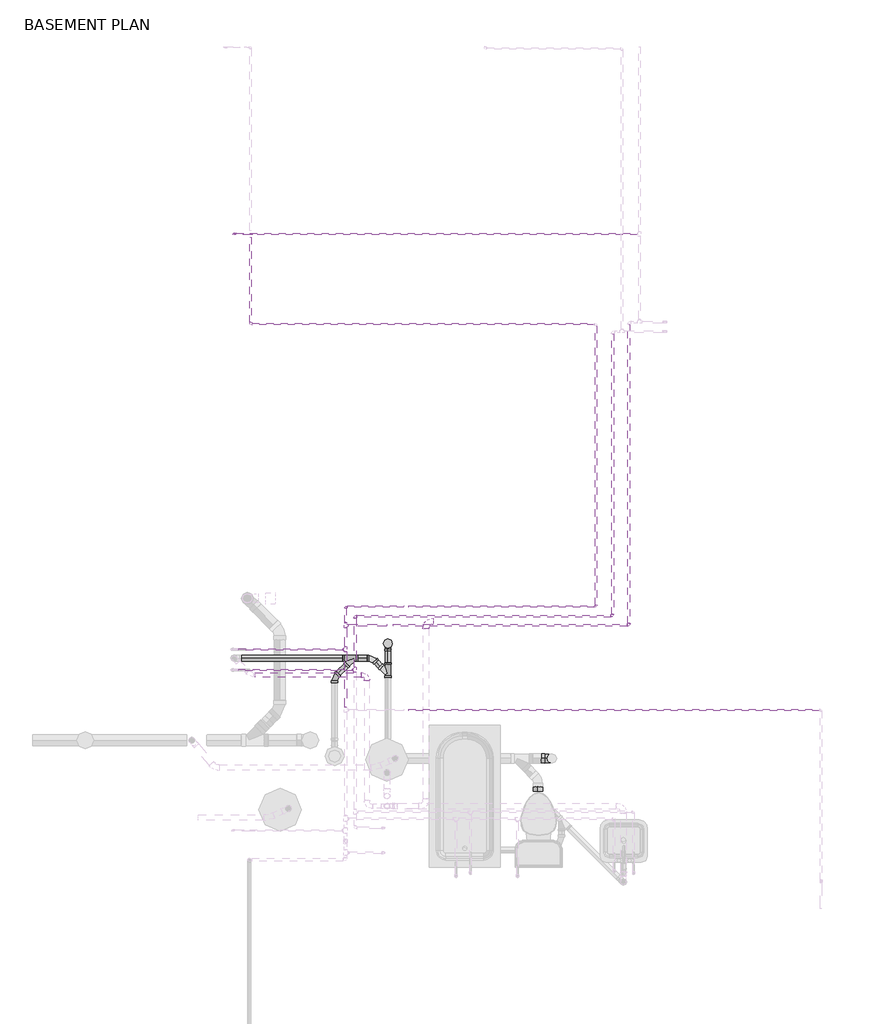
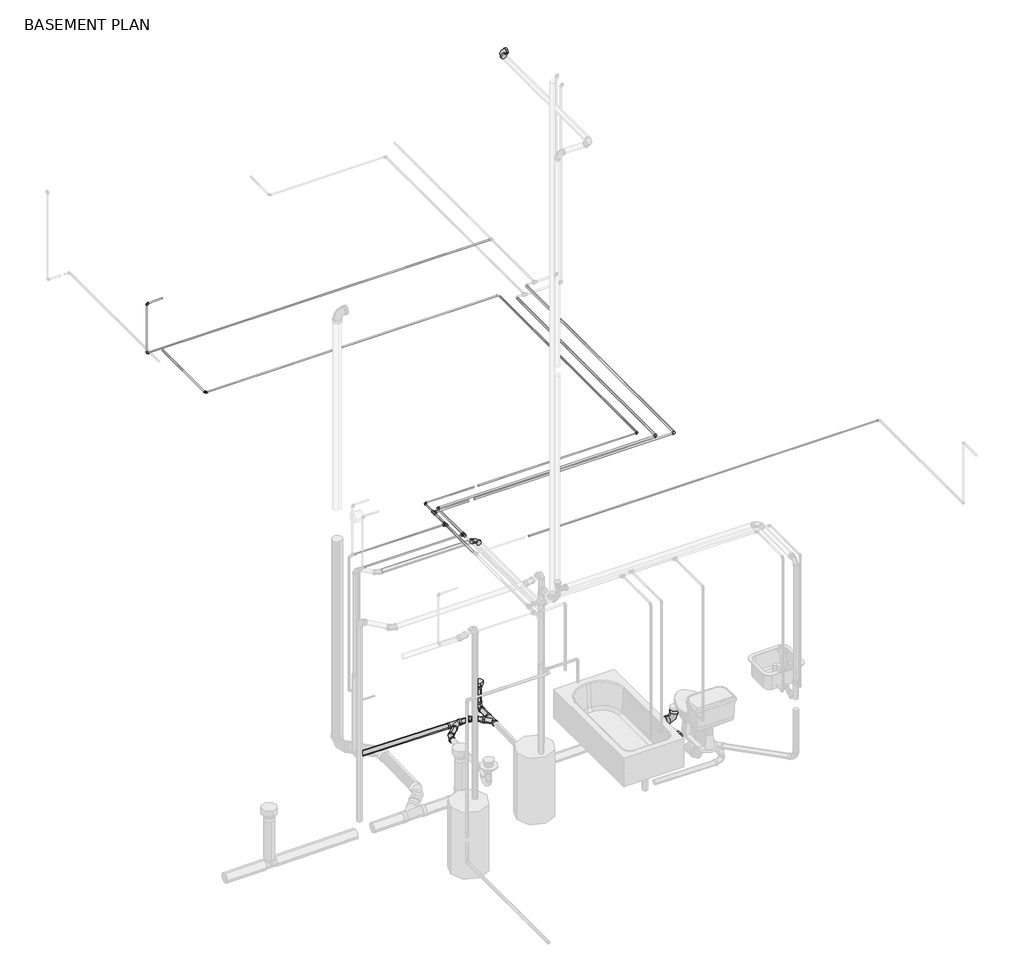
# One storey, part 5 of 6: 28 pipe segments, 23 pipe fittings.
"""IFC4 building model written with IfcOpenShell, lengths in millimetres."""

from ifc_helpers import new_model, si_unit, point, frame, frame_2d, origin, place, context, project, spatial, circle_curve, trimmed, segment, composite_curve, outline, extrude, transform, mapped, element, save
from components import bend_pvc_sch_40_dwv_standard_22440e34, bend_pvc_sch_40_dwv_standard_738aab8b, bend_pvc_sch_40_dwv_standard_0b2bbcd0, bend_pvc_sch_40_dwv_standard_ae25a3c1, bend_pvc_sch_40_dwv_standard_a07dc17c, bend_pvc_sch_40_dwv_standard_1eaeee76, ges_wye_45_deg_reducing_pvc_sch_40_dwv_standard_9c642ce4, ges_wye_45_deg_reducing_pvc_sch_40_dwv_standard_65c4563d, pipe_elbow_copper_k_feaaf02c, pipe_elbow_copper_k_aad62f2d, pipe_tee_copper_k_ee363fbf, pipe_transition_copper_k_859ff352, reducer_pvc_sch_40_dwv_standard_44865e00

model = new_model("IFC4")

# Units and contexts
model_context = context("Model", 3, world=origin())
ifc_project = project(units=[si_unit("LENGTHUNIT", "METRE", prefix="MILLI")], contexts=[model_context])

# Site, building, storey
site = spatial("IfcSite", under=ifc_project)
building = spatial("IfcBuilding", under=site)
storey = spatial("IfcBuildingStorey", under=building, Name="BASEMENT PLAN", Elevation=-2743.2)

# Pipe fittings
placement = place(None, origin())
bend_pvc_sch_40_dwv_standard_shape = bend_pvc_sch_40_dwv_standard_22440e34(model_context)
element("IfcPipeFitting", 1, ObjectType="Bend - PVC - Sch 40 - DWV : Standard", at=placement, inside=storey, context=model_context, shape_type="MappedRepresentation", body=[
    mapped(bend_pvc_sch_40_dwv_standard_shape, transform((12899.7521498, 6499.8094775, -2966.6448268), x_axis=(-0.7070684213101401, 0.7070684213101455, 0.010416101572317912), y_axis=(-0.7070684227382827, -0.7071319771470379, 0.004314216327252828), z_axis=(0.010416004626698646, -0.004314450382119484, 0.9999364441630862))),
])
bend_pvc_sch_40_dwv_standard_2_shape = bend_pvc_sch_40_dwv_standard_738aab8b(model_context)
element("IfcPipeFitting", 2, ObjectType="Bend - PVC - Sch 40 - DWV : Standard", at=placement, inside=storey, context=model_context, shape_type="MappedRepresentation", body=[
    mapped(bend_pvc_sch_40_dwv_standard_2_shape, transform((12840.5254798, 6320.2049895, -457.1992725), x_axis=(0.0, 1.0, 0.0), y_axis=(-0.999999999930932, 0.0, -1.1753125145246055e-05), z_axis=(-1.1753125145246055e-05, 0.0, 0.999999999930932))),
])
bend_pvc_sch_40_dwv_standard_3_shape = bend_pvc_sch_40_dwv_standard_0b2bbcd0(model_context)
element("IfcPipeFitting", 3, ObjectType="Bend - PVC - Sch 40 - DWV : Standard", at=placement, inside=storey, context=model_context, shape_type="MappedRepresentation", body=[
    mapped(bend_pvc_sch_40_dwv_standard_3_shape, transform((14825.8662506, 5423.7988348, -2979.8369484), x_axis=(0.9999879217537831, 0.0, 0.004914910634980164), y_axis=(-0.004914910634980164, 0.0, 0.9999879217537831), z_axis=(0.0, -1.0, 0.0))),
])
bend_pvc_sch_40_dwv_standard_4_shape = bend_pvc_sch_40_dwv_standard_ae25a3c1(model_context)
element("IfcPipeFitting", 4, ObjectType="Bend - PVC - Sch 40 - DWV : Standard", at=placement, inside=storey, context=model_context, shape_type="MappedRepresentation", body=[
    mapped(bend_pvc_sch_40_dwv_standard_4_shape, transform((13065.0696207, 6656.3115087, -2967.4013021), x_axis=(0.0, 0.9999976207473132, 0.0021813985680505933), y_axis=(0.0, -0.0021813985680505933, 0.9999976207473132), z_axis=(1.0, 0.0, 0.0))),
])
bend_pvc_sch_40_dwv_standard_5_shape = bend_pvc_sch_40_dwv_standard_a07dc17c(model_context)
element("IfcPipeFitting", 5, ObjectType="Bend - PVC - Sch 40 - DWV : Standard", at=placement, inside=storey, context=model_context, shape_type="MappedRepresentation", body=[
    mapped(bend_pvc_sch_40_dwv_standard_5_shape, transform((12494.0776142, 6295.5440891, -2962.795389), x_axis=(-0.7070684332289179, -0.7071067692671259, 0.007365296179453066), y_axis=(0.707068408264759, -0.7071067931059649, -0.0073654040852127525), z_axis=(0.01041617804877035, -7.648062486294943e-08, 0.9999457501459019))),
])
bend_pvc_sch_40_dwv_standard_6_shape = bend_pvc_sch_40_dwv_standard_1eaeee76(model_context)
element("IfcPipeFitting", 6, ObjectType="Bend - PVC - Sch 40 - DWV : Standard", at=placement, inside=storey, context=model_context, shape_type="MappedRepresentation", body=[
    mapped(bend_pvc_sch_40_dwv_standard_6_shape, transform((13475.5254798, 6891.7049895, 5486.4), x_axis=(-1.0, 0.0, 0.0), y_axis=(0.0, -1.0, 0.0), z_axis=(0.0, 0.0, 1.0))),
])
ges_wye_45_deg_reducing_pvc_sch_40_dwv_standard_shape = ges_wye_45_deg_reducing_pvc_sch_40_dwv_standard_9c642ce4(model_context)
element("IfcPipeFitting", 7, ObjectType="GES Wye 45 Deg Reducing - PVC - Sch 40 - DWV : Standard", at=placement, inside=storey, context=model_context, shape_type="MappedRepresentation", body=[
    mapped(ges_wye_45_deg_reducing_pvc_sch_40_dwv_standard_shape, transform((13065.0696207, 6334.4920066, -2969.0801831), x_axis=(0.0, 0.9999457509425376, 0.0104161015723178), y_axis=(0.9999906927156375, 4.4939753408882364e-05, -0.004314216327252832), z_axis=(-0.00431445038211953, 0.010416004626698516, -0.9999364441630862))),
])
ges_wye_45_deg_reducing_pvc_sch_40_dwv_standard_2_shape = ges_wye_45_deg_reducing_pvc_sch_40_dwv_standard_65c4563d(model_context)
element("IfcPipeFitting", 8, ObjectType="GES Wye 45 Deg Reducing - PVC - Sch 40 - DWV : Standard", at=placement, inside=storey, context=model_context, shape_type="MappedRepresentation", body=[
    mapped(ges_wye_45_deg_reducing_pvc_sch_40_dwv_standard_2_shape, transform((12698.3357503, 6499.8094775, -2964.5467393), x_axis=(-0.9999457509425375, 0.0, 0.010416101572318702), y_axis=(0.0, 1.0, 0.0), z_axis=(-0.010416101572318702, 0.0, -0.9999457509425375))),
])
pipe_elbow_copper_k_shape = pipe_elbow_copper_k_feaaf02c(model_context)
element("IfcPipeFitting", 9, ObjectType="Pipe Elbow : Copper- K", at=placement, inside=storey, context=model_context, shape_type="MappedRepresentation", body=[
    mapped(pipe_elbow_copper_k_shape, transform((15653.8646023, 6851.6848541, -334.4523585), x_axis=(1.0, 0.0, 0.0), y_axis=(0.0, 1.0, 0.0), z_axis=(0.0, 0.0, 1.0))),
])
element("IfcPipeFitting", 10, ObjectType="Pipe Elbow : Copper- K", at=placement, inside=storey, context=model_context, shape_type="MappedRepresentation", body=[
    mapped(pipe_elbow_copper_k_shape, transform((15478.2943208, 6951.0551356, -372.5523585), x_axis=(1.0, 0.0, 0.0), y_axis=(0.0, 1.0, 0.0), z_axis=(0.0, 0.0, 1.0))),
])
element("IfcPipeFitting", 11, ObjectType="Pipe Elbow : Copper- K", at=placement, inside=storey, context=model_context, shape_type="MappedRepresentation", body=[
    mapped(pipe_elbow_copper_k_shape, transform((12713.5254798, 6951.0551356, -372.5523585), x_axis=(-1.0, 0.0, 0.0), y_axis=(0.0, -1.0, 0.0), z_axis=(0.0, 0.0, 1.0))),
])
pipe_elbow_copper_k_2_shape = pipe_elbow_copper_k_aad62f2d(model_context)
element("IfcPipeFitting", 12, ObjectType="Pipe Elbow : Copper- K", at=placement, inside=storey, context=model_context, shape_type="MappedRepresentation", body=[
    mapped(pipe_elbow_copper_k_2_shape, transform((12611.9254798, 7052.7706776, -334.4523585), x_axis=(-1.0, 0.0, 0.0), y_axis=(0.0, -1.0, 0.0), z_axis=(0.0, 0.0, 1.0))),
])
element("IfcPipeFitting", 13, ObjectType="Pipe Elbow : Copper- K", at=placement, inside=storey, context=model_context, shape_type="MappedRepresentation", body=[
    mapped(pipe_elbow_copper_k_2_shape, transform((15300.3787788, 7052.7706776, -334.4523585), x_axis=(1.0, 0.0, 0.0), y_axis=(0.0, 1.0, 0.0), z_axis=(0.0, 0.0, 1.0))),
])
element("IfcPipeFitting", 14, ObjectType="Pipe Elbow : Copper- K", at=placement, inside=storey, context=model_context, shape_type="MappedRepresentation", body=[
    mapped(pipe_elbow_copper_k_2_shape, transform((11412.5692298, 11054.3580205, 330.2), x_axis=(0.0, 0.0, 1.0), y_axis=(1.0, 0.0, 0.0), z_axis=(0.0, 1.0, 0.0))),
])
element("IfcPipeFitting", 15, ObjectType="Pipe Elbow : Copper- K", at=placement, inside=storey, context=model_context, shape_type="MappedRepresentation", body=[
    mapped(pipe_elbow_copper_k_2_shape, transform((11591.9787788, 10086.3006796, -334.4523585), x_axis=(0.0, -1.0, 0.0), y_axis=(1.0, 0.0, 0.0), z_axis=(0.0, 0.0, 1.0))),
])
element("IfcPipeFitting", 16, ObjectType="Pipe Elbow : Copper- K", at=placement, inside=storey, context=model_context, shape_type="MappedRepresentation", body=[
    mapped(pipe_elbow_copper_k_2_shape, transform((11412.5692298, 11054.3580205, -334.4523585), x_axis=(0.0, 0.0, -1.0), y_axis=(1.0, 0.0, 0.0), z_axis=(0.0, -1.0, 0.0))),
])
pipe_tee_copper_k_shape = pipe_tee_copper_k_ee363fbf(model_context)
element("IfcPipeFitting", 17, ObjectType="Pipe Tee : Copper- K", at=placement, inside=storey, context=model_context, shape_type="MappedRepresentation", body=[
    mapped(pipe_tee_copper_k_shape, transform((12611.9254798, 6593.4490306, -334.4523585), x_axis=(0.0, -1.0, 0.0), y_axis=(1.0, 0.0, 0.0), z_axis=(0.0, 0.0, 1.0))),
])
element("IfcPipeFitting", 18, ObjectType="Pipe Tee : Copper- K", at=placement, inside=storey, context=model_context, shape_type="MappedRepresentation", body=[
    mapped(pipe_tee_copper_k_shape, transform((12713.5254798, 6373.0955073, -372.5523585), x_axis=(0.0, -1.0, 0.0), y_axis=(1.0, 0.0, 0.0), z_axis=(0.0, 0.0, 1.0))),
])
element("IfcPipeFitting", 19, ObjectType="Pipe Tee : Copper- K", at=placement, inside=storey, context=model_context, shape_type="MappedRepresentation", body=[
    mapped(pipe_tee_copper_k_shape, transform((12611.9254798, 6851.6848541, -334.4523585), x_axis=(0.0, -1.0, 0.0), y_axis=(-1.0, 0.0, 0.0), z_axis=(0.0, 0.0, -1.0))),
])
pipe_transition_copper_k_shape = pipe_transition_copper_k_859ff352(model_context)
element("IfcPipeFitting", 20, ObjectType="Pipe Transition : Copper- K", at=placement, inside=storey, context=model_context, shape_type="MappedRepresentation", body=[
    mapped(pipe_transition_copper_k_shape, transform((12584.9379798, 6593.4490306, -334.4523585), x_axis=(-1.0, 0.0, 0.0), y_axis=(0.0, -1.0, 0.0), z_axis=(0.0, 0.0, 1.0))),
])
element("IfcPipeFitting", 21, ObjectType="Pipe Transition : Copper- K", at=placement, inside=storey, context=model_context, shape_type="MappedRepresentation", body=[
    mapped(pipe_transition_copper_k_shape, transform((12686.5379798, 6373.0955073, -372.5523585), x_axis=(-1.0, 0.0, 0.0), y_axis=(0.0, -1.0, 0.0), z_axis=(0.0, 0.0, 1.0))),
])
element("IfcPipeFitting", 22, ObjectType="Pipe Transition : Copper- K", at=placement, inside=storey, context=model_context, shape_type="MappedRepresentation", body=[
    mapped(pipe_transition_copper_k_shape, transform((12611.9254798, 6878.6723541, -334.4523585), x_axis=(0.0, 1.0, 0.0), y_axis=(-1.0, 0.0, 0.0), z_axis=(0.0, 0.0, 1.0))),
])
reducer_pvc_sch_40_dwv_standard_shape = reducer_pvc_sch_40_dwv_standard_44865e00(model_context)
element("IfcPipeFitting", 23, ObjectType="Reducer - PVC - Sch 40 - DWV : Standard", at=placement, inside=storey, context=model_context, shape_type="MappedRepresentation", body=[
    mapped(reducer_pvc_sch_40_dwv_standard_shape, transform((13065.0696207, 6656.3115087, -2706.813665), x_axis=(0.0, 0.0, 1.0), y_axis=(1.0, 0.0, 0.0), z_axis=(0.0, 1.0, 0.0))),
])

# Pipe segments
element("IfcPipeSegment", 24, ObjectType="Cast Iron - SAN/STORM", at=placement, inside=storey, context=model_context, shape_type="SweptSolid", body=[
    extrude(outline(composite_curve([segment(trimmed(circle_curve(frame_2d((0.0, -30.1625)), 30.1625), [point((0.0, -60.325))], [point((-30.1625, -30.1625))], False, "CARTESIAN"), True, "CONTINUOUS"), segment(trimmed(circle_curve(frame_2d((0.0, -30.1625)), 30.1625), [point((-30.1625, -30.1625))], [point((0.0, 0.0))], False, "CARTESIAN"), True, "CONTINUOUS"), segment(trimmed(circle_curve(frame_2d((0.0, -30.1625)), 30.1625), [point((0.0, 0.0))], [point((30.1625, -30.1625))], False, "CARTESIAN"), True, "CONTINUOUS"), segment(trimmed(circle_curve(frame_2d((0.0, -30.1625)), 30.1625), [point((30.1625, -30.1625))], [point((0.0, -60.325))], False, "CARTESIAN"), True, "CONTINUOUS")], self_intersect=False)), frame((12842.6052501, 6529.9719775, -2966.0495466), z_axis=(-0.9999457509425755, 0.0, 0.010416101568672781), x_axis=(0.010416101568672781, 0.0, 0.9999457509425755)), (0.0, 0.0, 1.0), 100.109108),
])
element("IfcPipeSegment", 25, ObjectType="Cast Iron - SAN/STORM", at=placement, inside=storey, context=model_context, shape_type="SweptSolid", body=[
    extrude(outline(composite_curve([segment(trimmed(circle_curve(frame_2d((0.0, -30.1625)), 30.1625), [point((-30.1608639, -30.4766586))], [point((-0.3141587, -0.001636))], False, "CARTESIAN"), True, "CONTINUOUS"), segment(trimmed(circle_curve(frame_2d((0.0, -30.1625)), 30.1625), [point((-0.3141587, -0.001636))], [point((30.1608639, -29.8483414))], False, "CARTESIAN"), True, "CONTINUOUS"), segment(trimmed(circle_curve(frame_2d((0.0, -30.1625)), 30.1625), [point((30.1608639, -29.8483414))], [point((0.3141586, -60.3233639))], False, "CARTESIAN"), True, "CONTINUOUS"), segment(trimmed(circle_curve(frame_2d((0.0, -30.1625)), 30.1625), [point((0.3141586, -60.3233639))], [point((-30.1608639, -30.4766586))], False, "CARTESIAN"), True, "CONTINUOUS")], self_intersect=False)), frame((12984.9953373, 6415.0105774, -2998.0598052), z_axis=(-0.7070684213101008, 0.7070684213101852, 0.010416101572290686), x_axis=(0.7071451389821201, 0.7069917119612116, 0.010414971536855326)), (0.0, 0.0, 1.0), 63.408612),
])
element("IfcPipeSegment", 26, ObjectType="Cast Iron - SAN/STORM", at=placement, inside=storey, context=model_context, shape_type="SweptSolid", body=[
    extrude(outline(composite_curve([segment(trimmed(circle_curve(frame_2d((0.0, 50.403125)), 50.403125), [point((-50.403125, 50.403125))], [point((0.0, 100.8062499))], False, "CARTESIAN"), True, "CONTINUOUS"), segment(trimmed(circle_curve(frame_2d((0.0, 50.403125)), 50.403125), [point((0.0, 100.8062499))], [point((50.403125, 50.403125))], False, "CARTESIAN"), True, "CONTINUOUS"), segment(trimmed(circle_curve(frame_2d((0.0, 50.403125)), 50.403125), [point((50.403125, 50.403125))], [point((0.0, 0.0))], False, "CARTESIAN"), True, "CONTINUOUS"), segment(trimmed(circle_curve(frame_2d((0.0, 50.403125)), 50.403125), [point((0.0, 0.0))], [point((-50.403125, 50.403125))], False, "CARTESIAN"), True, "CONTINUOUS")], self_intersect=False)), frame((14676.5331398, 5118.8215667, -3029.8372366), z_axis=(0.0, -0.9999457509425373, 0.010416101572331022), x_axis=(1.0, 0.0, 0.0)), (0.0, 0.0, 1.0), 46.2797682),
])
element("IfcPipeSegment", 27, ObjectType="Cast Iron - SAN/STORM", at=placement, inside=storey, context=model_context, shape_type="SweptSolid", body=[
    extrude(outline(composite_curve([segment(trimmed(circle_curve(frame_2d((0.0, 30.1625)), 30.1625), [point((-30.1622354, 30.2888525))], [point((0.1263525, 60.3247354))], False, "CARTESIAN"), True, "CONTINUOUS"), segment(trimmed(circle_curve(frame_2d((0.0, 30.1625)), 30.1625), [point((0.1263525, 60.3247354))], [point((30.1622353, 30.0361475))], False, "CARTESIAN"), True, "CONTINUOUS"), segment(trimmed(circle_curve(frame_2d((0.0, 30.1625)), 30.1625), [point((30.1622353, 30.0361475))], [point((-0.1263525, 0.0002647))], False, "CARTESIAN"), True, "CONTINUOUS"), segment(trimmed(circle_curve(frame_2d((0.0, 30.1625)), 30.1625), [point((-0.1263525, 0.0002647))], [point((-30.1622354, 30.2888525))], False, "CARTESIAN"), True, "CONTINUOUS")], self_intersect=False)), frame((12618.2614655, 6419.552161, -2993.8746029), z_axis=(-0.7070975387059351, -0.7071036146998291, 0.004189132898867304), x_axis=(0.7071160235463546, -0.7070851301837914, 0.00418902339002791)), (0.0, 0.0, 1.0), 118.4771348),
])
element("IfcPipeSegment", 28, ObjectType="Cast Iron - SAN/STORM", at=placement, inside=storey, context=model_context, shape_type="SweptSolid", body=[
    extrude(outline(composite_curve([segment(trimmed(circle_curve(frame_2d((0.0, 30.1625)), 30.1625), [point((30.1625, 30.1625))], [point((0.0, 0.0))], False, "CARTESIAN"), True, "CONTINUOUS"), segment(trimmed(circle_curve(frame_2d((0.0, 30.1625)), 30.1625), [point((0.0, 0.0))], [point((-30.1625, 30.1625))], False, "CARTESIAN"), True, "CONTINUOUS"), segment(trimmed(circle_curve(frame_2d((0.0, 30.1625)), 30.1625), [point((-30.1625, 30.1625))], [point((0.0, 60.325))], False, "CARTESIAN"), True, "CONTINUOUS"), segment(trimmed(circle_curve(frame_2d((0.0, 30.1625)), 30.1625), [point((0.0, 60.325))], [point((30.1625, 30.1625))], False, "CARTESIAN"), True, "CONTINUOUS")], self_intersect=False)), frame((13065.0696207, 6453.0457123, -2937.6821351), z_axis=(0.0, 0.9999976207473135, 0.0021813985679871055), x_axis=(1.0, 0.0, 0.0)), (0.0, 0.0, 1.0), 125.4002835),
])
element("IfcPipeSegment", 29, ObjectType="Cast Iron - SAN/STORM", at=placement, inside=storey, context=model_context, shape_type="SweptSolid", body=[
    extrude(outline(composite_curve([segment(trimmed(circle_curve(frame_2d((13065.0696207, 6656.3115087)), 30.1625), [point((13034.9071207, 6656.3115087))], [point((13065.0696207, 6686.4740087))], False, "CARTESIAN"), True, "CONTINUOUS"), segment(trimmed(circle_curve(frame_2d((13065.0696207, 6656.3115087)), 30.1625), [point((13065.0696207, 6686.4740087))], [point((13095.2321207, 6656.3115087))], False, "CARTESIAN"), True, "CONTINUOUS"), segment(trimmed(circle_curve(frame_2d((13065.0696207, 6656.3115087)), 30.1625), [point((13095.2321207, 6656.3115087))], [point((13065.0696207, 6626.1490087))], False, "CARTESIAN"), True, "CONTINUOUS"), segment(trimmed(circle_curve(frame_2d((13065.0696207, 6656.3115087)), 30.1625), [point((13065.0696207, 6626.1490087))], [point((13034.9071207, 6656.3115087))], False, "CARTESIAN"), True, "CONTINUOUS")], self_intersect=False)), frame((0.0, 0.0, -2889.6011021), z_axis=(0.0, 0.0, 1.0), x_axis=(1.0, 0.0, 0.0)), (0.0, 0.0, 1.0), 182.7874371),
])
element("IfcPipeSegment", 30, ObjectType="Cast Iron - SAN/STORM", at=placement, inside=storey, context=model_context, shape_type="SweptSolid", body=[
    extrude(outline(composite_curve([segment(trimmed(circle_curve(frame_2d((0.0, -30.1625)), 30.1625), [point((0.0, -60.325))], [point((-30.1625, -30.1625))], False, "CARTESIAN"), True, "CONTINUOUS"), segment(trimmed(circle_curve(frame_2d((0.0, -30.1625)), 30.1625), [point((-30.1625, -30.1625))], [point((0.0, 0.0))], False, "CARTESIAN"), True, "CONTINUOUS"), segment(trimmed(circle_curve(frame_2d((0.0, -30.1625)), 30.1625), [point((0.0, 0.0))], [point((30.1625, -30.1625))], False, "CARTESIAN"), True, "CONTINUOUS"), segment(trimmed(circle_curve(frame_2d((0.0, -30.1625)), 30.1625), [point((30.1625, -30.1625))], [point((0.0, -60.325))], False, "CARTESIAN"), True, "CONTINUOUS")], self_intersect=False)), frame((12579.7162481, 6529.9719775, -2963.3111195), z_axis=(-0.999945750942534, 0.0, 0.010416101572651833), x_axis=(0.010416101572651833, 0.0, 0.999945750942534)), (0.0, 0.0, 1.0), 1087.0724453),
])
element("IfcPipeSegment", 31, ObjectType="Copper", at=placement, inside=storey, context=model_context, shape_type="SweptSolid", body=[
    extrude(outline(composite_curve([segment(trimmed(circle_curve(frame_2d((-372.5523585, 12713.5254798)), 11.1125), [point((-372.5523585, 12724.6379798))], [point((-361.4398585, 12713.5254798))], False, "CARTESIAN"), True, "CONTINUOUS"), segment(trimmed(circle_curve(frame_2d((-372.5523585, 12713.5254798)), 11.1125), [point((-361.4398585, 12713.5254798))], [point((-372.5523585, 12702.4129798))], False, "CARTESIAN"), True, "CONTINUOUS"), segment(trimmed(circle_curve(frame_2d((-372.5523585, 12713.5254798)), 11.1125), [point((-372.5523585, 12702.4129798))], [point((-383.6648585, 12713.5254798))], False, "CARTESIAN"), True, "CONTINUOUS"), segment(trimmed(circle_curve(frame_2d((-372.5523585, 12713.5254798)), 11.1125), [point((-383.6648585, 12713.5254798))], [point((-372.5523585, 12724.6379798))], False, "CARTESIAN"), True, "CONTINUOUS")], self_intersect=False)), frame((0.0, 6400.0830073, 0.0), z_axis=(0.0, 1.0, 0.0), x_axis=(0.0, 0.0, 1.0)), (0.0, 0.0, 1.0), 530.3346283),
])
element("IfcPipeSegment", 32, ObjectType="Copper", at=placement, inside=storey, context=model_context, shape_type="SweptSolid", body=[
    extrude(outline(composite_curve([segment(trimmed(circle_curve(frame_2d((-334.4523585, 12611.9254798)), 7.9375), [point((-334.4523585, 12619.8629798))], [point((-326.5148585, 12611.9254798))], False, "CARTESIAN"), True, "CONTINUOUS"), segment(trimmed(circle_curve(frame_2d((-334.4523585, 12611.9254798)), 7.9375), [point((-326.5148585, 12611.9254798))], [point((-334.4523585, 12603.9879798))], False, "CARTESIAN"), True, "CONTINUOUS"), segment(trimmed(circle_curve(frame_2d((-334.4523585, 12611.9254798)), 7.9375), [point((-334.4523585, 12603.9879798))], [point((-342.3898585, 12611.9254798))], False, "CARTESIAN"), True, "CONTINUOUS"), segment(trimmed(circle_curve(frame_2d((-334.4523585, 12611.9254798)), 7.9375), [point((-342.3898585, 12611.9254798))], [point((-334.4523585, 12619.8629798))], False, "CARTESIAN"), True, "CONTINUOUS")], self_intersect=False)), frame((0.0, 6884.2286041, 0.0), z_axis=(0.0, 1.0, 0.0), x_axis=(0.0, 0.0, 1.0)), (0.0, 0.0, 1.0), 151.0795735),
])
element("IfcPipeSegment", 33, ObjectType="Copper", at=placement, inside=storey, context=model_context, shape_type="SweptSolid", body=[
    extrude(outline(composite_curve([segment(trimmed(circle_curve(frame_2d((7052.7706776, -334.4523585)), 7.9375), [point((7060.7081776, -334.4523585))], [point((7052.7706776, -342.3898585))], False, "CARTESIAN"), True, "CONTINUOUS"), segment(trimmed(circle_curve(frame_2d((7052.7706776, -334.4523585)), 7.9375), [point((7052.7706776, -342.3898585))], [point((7044.8331776, -334.4523585))], False, "CARTESIAN"), True, "CONTINUOUS"), segment(trimmed(circle_curve(frame_2d((7052.7706776, -334.4523585)), 7.9375), [point((7044.8331776, -334.4523585))], [point((7052.7706776, -326.5148585))], False, "CARTESIAN"), True, "CONTINUOUS"), segment(trimmed(circle_curve(frame_2d((7052.7706776, -334.4523585)), 7.9375), [point((7052.7706776, -326.5148585))], [point((7060.7081776, -334.4523585))], False, "CARTESIAN"), True, "CONTINUOUS")], self_intersect=False)), frame((12629.3879798, 0.0, 0.0), z_axis=(1.0, 0.0, 0.0), x_axis=(0.0, 1.0, 0.0)), (0.0, 0.0, 1.0), 606.25757),
])
element("IfcPipeSegment", 34, ObjectType="Copper", at=placement, inside=storey, context=model_context, shape_type="SweptSolid", body=[
    extrude(outline(composite_curve([segment(trimmed(circle_curve(frame_2d((6951.0551356, -372.5523585)), 11.1125), [point((6962.1676356, -372.5523585))], [point((6951.0551356, -383.6648585))], False, "CARTESIAN"), True, "CONTINUOUS"), segment(trimmed(circle_curve(frame_2d((6951.0551356, -372.5523585)), 11.1125), [point((6951.0551356, -383.6648585))], [point((6939.9426356, -372.5523585))], False, "CARTESIAN"), True, "CONTINUOUS"), segment(trimmed(circle_curve(frame_2d((6951.0551356, -372.5523585)), 11.1125), [point((6939.9426356, -372.5523585))], [point((6951.0551356, -361.4398585))], False, "CARTESIAN"), True, "CONTINUOUS"), segment(trimmed(circle_curve(frame_2d((6951.0551356, -372.5523585)), 11.1125), [point((6951.0551356, -361.4398585))], [point((6962.1676356, -372.5523585))], False, "CARTESIAN"), True, "CONTINUOUS")], self_intersect=False)), frame((12734.1629798, 0.0, 0.0), z_axis=(1.0, 0.0, 0.0), x_axis=(0.0, 1.0, 0.0)), (0.0, 0.0, 1.0), 2723.4938409),
])
element("IfcPipeSegment", 35, ObjectType="Copper", at=placement, inside=storey, context=model_context, shape_type="SweptSolid", body=[
    extrude(outline(composite_curve([segment(trimmed(circle_curve(frame_2d((6851.6848541, -334.4523585)), 11.1125), [point((6862.7973541, -334.4523585))], [point((6851.6848541, -345.5648585))], False, "CARTESIAN"), True, "CONTINUOUS"), segment(trimmed(circle_curve(frame_2d((6851.6848541, -334.4523585)), 11.1125), [point((6851.6848541, -345.5648585))], [point((6840.5723541, -334.4523585))], False, "CARTESIAN"), True, "CONTINUOUS"), segment(trimmed(circle_curve(frame_2d((6851.6848541, -334.4523585)), 11.1125), [point((6840.5723541, -334.4523585))], [point((6851.6848541, -323.3398585))], False, "CARTESIAN"), True, "CONTINUOUS"), segment(trimmed(circle_curve(frame_2d((6851.6848541, -334.4523585)), 11.1125), [point((6851.6848541, -323.3398585))], [point((6862.7973541, -334.4523585))], False, "CARTESIAN"), True, "CONTINUOUS")], self_intersect=False)), frame((12638.9129798, 0.0, 0.0), z_axis=(1.0, 0.0, 0.0), x_axis=(0.0, 1.0, 0.0)), (0.0, 0.0, 1.0), 414.2407628),
])
element("IfcPipeSegment", 36, ObjectType="Copper", at=placement, inside=storey, context=model_context, shape_type="SweptSolid", body=[
    extrude(outline(composite_curve([segment(trimmed(circle_curve(frame_2d((-372.5523585, 15478.2943208)), 11.1125), [point((-372.5523585, 15467.1818208))], [point((-383.6648585, 15478.2943208))], False, "CARTESIAN"), True, "CONTINUOUS"), segment(trimmed(circle_curve(frame_2d((-372.5523585, 15478.2943208)), 11.1125), [point((-383.6648585, 15478.2943208))], [point((-372.5523585, 15489.4068208))], False, "CARTESIAN"), True, "CONTINUOUS"), segment(trimmed(circle_curve(frame_2d((-372.5523585, 15478.2943208)), 11.1125), [point((-372.5523585, 15489.4068208))], [point((-361.4398585, 15478.2943208))], False, "CARTESIAN"), True, "CONTINUOUS"), segment(trimmed(circle_curve(frame_2d((-372.5523585, 15478.2943208)), 11.1125), [point((-361.4398585, 15478.2943208))], [point((-372.5523585, 15467.1818208))], False, "CARTESIAN"), True, "CONTINUOUS")], self_intersect=False)), frame((0.0, 6971.6926356, 0.0), z_axis=(0.0, 1.0, 0.0), x_axis=(0.0, 0.0, 1.0)), (0.0, 0.0, 1.0), 3012.892502),
])
element("IfcPipeSegment", 37, ObjectType="Copper", at=placement, inside=storey, context=model_context, shape_type="SweptSolid", body=[
    extrude(outline(composite_curve([segment(trimmed(circle_curve(frame_2d((-334.4523585, 15300.3787788)), 7.9375), [point((-334.4523585, 15292.4412788))], [point((-342.3898585, 15300.3787788))], False, "CARTESIAN"), True, "CONTINUOUS"), segment(trimmed(circle_curve(frame_2d((-334.4523585, 15300.3787788)), 7.9375), [point((-342.3898585, 15300.3787788))], [point((-334.4523585, 15308.3162788))], False, "CARTESIAN"), True, "CONTINUOUS"), segment(trimmed(circle_curve(frame_2d((-334.4523585, 15300.3787788)), 7.9375), [point((-334.4523585, 15308.3162788))], [point((-326.5148585, 15300.3787788))], False, "CARTESIAN"), True, "CONTINUOUS"), segment(trimmed(circle_curve(frame_2d((-334.4523585, 15300.3787788)), 7.9375), [point((-326.5148585, 15300.3787788))], [point((-334.4523585, 15292.4412788))], False, "CARTESIAN"), True, "CONTINUOUS")], self_intersect=False)), frame((0.0, 7070.2331776, 0.0), z_axis=(0.0, 1.0, 0.0), x_axis=(0.0, 0.0, 1.0)), (0.0, 0.0, 1.0), 2998.605002),
])
element("IfcPipeSegment", 38, ObjectType="Copper", at=placement, inside=storey, context=model_context, shape_type="SweptSolid", body=[
    extrude(outline(composite_curve([segment(trimmed(circle_curve(frame_2d((-334.4523585, 15653.8646023)), 11.1125), [point((-334.4523585, 15642.7521023))], [point((-345.5648585, 15653.8646023))], False, "CARTESIAN"), True, "CONTINUOUS"), segment(trimmed(circle_curve(frame_2d((-334.4523585, 15653.8646023)), 11.1125), [point((-345.5648585, 15653.8646023))], [point((-334.4523585, 15664.9771023))], False, "CARTESIAN"), True, "CONTINUOUS"), segment(trimmed(circle_curve(frame_2d((-334.4523585, 15653.8646023)), 11.1125), [point((-334.4523585, 15664.9771023))], [point((-323.3398585, 15653.8646023))], False, "CARTESIAN"), True, "CONTINUOUS"), segment(trimmed(circle_curve(frame_2d((-334.4523585, 15653.8646023)), 11.1125), [point((-323.3398585, 15653.8646023))], [point((-334.4523585, 15642.7521023))], False, "CARTESIAN"), True, "CONTINUOUS")], self_intersect=False)), frame((0.0, 6872.3223541, 0.0), z_axis=(0.0, 1.0, 0.0), x_axis=(0.0, 0.0, 1.0)), (0.0, 0.0, 1.0), 3213.9783255),
])
element("IfcPipeSegment", 39, ObjectType="Copper", at=placement, inside=storey, context=model_context, shape_type="SweptSolid", body=[
    extrude(outline(composite_curve([segment(trimmed(circle_curve(frame_2d((-334.4523585, 12611.9254798)), 11.1125), [point((-334.4523585, 12623.0379798))], [point((-323.3398585, 12611.9254798))], False, "CARTESIAN"), True, "CONTINUOUS"), segment(trimmed(circle_curve(frame_2d((-334.4523585, 12611.9254798)), 11.1125), [point((-323.3398585, 12611.9254798))], [point((-334.4523585, 12600.8129798))], False, "CARTESIAN"), True, "CONTINUOUS"), segment(trimmed(circle_curve(frame_2d((-334.4523585, 12611.9254798)), 11.1125), [point((-334.4523585, 12600.8129798))], [point((-345.5648585, 12611.9254798))], False, "CARTESIAN"), True, "CONTINUOUS"), segment(trimmed(circle_curve(frame_2d((-334.4523585, 12611.9254798)), 11.1125), [point((-345.5648585, 12611.9254798))], [point((-334.4523585, 12623.0379798))], False, "CARTESIAN"), True, "CONTINUOUS")], self_intersect=False)), frame((0.0, 6620.4365306, 0.0), z_axis=(0.0, 1.0, 0.0), x_axis=(0.0, 0.0, 1.0)), (0.0, 0.0, 1.0), 204.2608235),
])
element("IfcPipeSegment", 40, ObjectType="Copper", at=placement, inside=storey, context=model_context, shape_type="SweptSolid", body=[
    extrude(outline(composite_curve([segment(trimmed(circle_curve(frame_2d((6593.4490306, -334.4523585)), 7.9375), [point((6601.3865306, -334.4523585))], [point((6593.4490306, -342.3898585))], False, "CARTESIAN"), True, "CONTINUOUS"), segment(trimmed(circle_curve(frame_2d((6593.4490306, -334.4523585)), 7.9375), [point((6593.4490306, -342.3898585))], [point((6585.5115306, -334.4523585))], False, "CARTESIAN"), True, "CONTINUOUS"), segment(trimmed(circle_curve(frame_2d((6593.4490306, -334.4523585)), 7.9375), [point((6585.5115306, -334.4523585))], [point((6593.4490306, -326.5148585))], False, "CARTESIAN"), True, "CONTINUOUS"), segment(trimmed(circle_curve(frame_2d((6593.4490306, -334.4523585)), 7.9375), [point((6593.4490306, -326.5148585))], [point((6601.3865306, -334.4523585))], False, "CARTESIAN"), True, "CONTINUOUS")], self_intersect=False)), frame((11461.0511676, 0.0, 0.0), z_axis=(1.0, 0.0, 0.0), x_axis=(0.0, 1.0, 0.0)), (0.0, 0.0, 1.0), 1118.3305622),
])
element("IfcPipeSegment", 41, ObjectType="Copper", at=placement, inside=storey, context=model_context, shape_type="SweptSolid", body=[
    extrude(outline(composite_curve([segment(trimmed(circle_curve(frame_2d((6373.0955073, -372.5523585)), 7.9375), [point((6381.0330073, -372.5523585))], [point((6373.0955073, -380.4898585))], False, "CARTESIAN"), True, "CONTINUOUS"), segment(trimmed(circle_curve(frame_2d((6373.0955073, -372.5523585)), 7.9375), [point((6373.0955073, -380.4898585))], [point((6365.1580073, -372.5523585))], False, "CARTESIAN"), True, "CONTINUOUS"), segment(trimmed(circle_curve(frame_2d((6373.0955073, -372.5523585)), 7.9375), [point((6365.1580073, -372.5523585))], [point((6373.0955073, -364.6148585))], False, "CARTESIAN"), True, "CONTINUOUS"), segment(trimmed(circle_curve(frame_2d((6373.0955073, -372.5523585)), 7.9375), [point((6373.0955073, -364.6148585))], [point((6381.0330073, -372.5523585))], False, "CARTESIAN"), True, "CONTINUOUS")], self_intersect=False)), frame((11460.5004994, 0.0, 0.0), z_axis=(1.0, 0.0, 0.0), x_axis=(0.0, 1.0, 0.0)), (0.0, 0.0, 1.0), 1220.4812304),
])
element("IfcPipeSegment", 42, ObjectType="Copper", at=placement, inside=storey, context=model_context, shape_type="SweptSolid", body=[
    extrude(outline(composite_curve([segment(trimmed(circle_curve(frame_2d((11412.5692298, 11054.3580205)), 7.9375), [point((11404.6317298, 11054.3580205))], [point((11412.5692298, 11062.2955205))], False, "CARTESIAN"), True, "CONTINUOUS"), segment(trimmed(circle_curve(frame_2d((11412.5692298, 11054.3580205)), 7.9375), [point((11412.5692298, 11062.2955205))], [point((11420.5067298, 11054.3580205))], False, "CARTESIAN"), True, "CONTINUOUS"), segment(trimmed(circle_curve(frame_2d((11412.5692298, 11054.3580205)), 7.9375), [point((11420.5067298, 11054.3580205))], [point((11412.5692298, 11046.4205205))], False, "CARTESIAN"), True, "CONTINUOUS"), segment(trimmed(circle_curve(frame_2d((11412.5692298, 11054.3580205)), 7.9375), [point((11412.5692298, 11046.4205205))], [point((11404.6317298, 11054.3580205))], False, "CARTESIAN"), True, "CONTINUOUS")], self_intersect=False)), frame((0.0, 0.0, -316.9898585), z_axis=(0.0, 0.0, 1.0), x_axis=(1.0, 0.0, 0.0)), (0.0, 0.0, 1.0), 629.7273585),
])
element("IfcPipeSegment", 43, ObjectType="Copper", at=placement, inside=storey, context=model_context, shape_type="SweptSolid", body=[
    extrude(outline(composite_curve([segment(trimmed(circle_curve(frame_2d((11054.3580205, 330.2)), 7.9375), [point((11046.4205205, 330.2))], [point((11054.3580205, 338.1375))], False, "CARTESIAN"), True, "CONTINUOUS"), segment(trimmed(circle_curve(frame_2d((11054.3580205, 330.2)), 7.9375), [point((11054.3580205, 338.1375))], [point((11062.2955205, 330.2))], False, "CARTESIAN"), True, "CONTINUOUS"), segment(trimmed(circle_curve(frame_2d((11054.3580205, 330.2)), 7.9375), [point((11062.2955205, 330.2))], [point((11054.3580205, 322.2625))], False, "CARTESIAN"), True, "CONTINUOUS"), segment(trimmed(circle_curve(frame_2d((11054.3580205, 330.2)), 7.9375), [point((11054.3580205, 322.2625))], [point((11046.4205205, 330.2))], False, "CARTESIAN"), True, "CONTINUOUS")], self_intersect=False)), frame((11430.0317298, 0.0, 0.0), z_axis=(1.0, 0.0, 0.0), x_axis=(0.0, 1.0, 0.0)), (0.0, 0.0, 1.0), 179.3875),
])
element("IfcPipeSegment", 44, ObjectType="Copper", at=placement, inside=storey, context=model_context, shape_type="SweptSolid", body=[
    extrude(outline(composite_curve([segment(trimmed(circle_curve(frame_2d((11054.3580205, -334.4523585)), 7.9375), [point((11062.2955205, -334.4523585))], [point((11054.3580205, -342.3898585))], False, "CARTESIAN"), True, "CONTINUOUS"), segment(trimmed(circle_curve(frame_2d((11054.3580205, -334.4523585)), 7.9375), [point((11054.3580205, -342.3898585))], [point((11046.4205205, -334.4523585))], False, "CARTESIAN"), True, "CONTINUOUS"), segment(trimmed(circle_curve(frame_2d((11054.3580205, -334.4523585)), 7.9375), [point((11046.4205205, -334.4523585))], [point((11054.3580205, -326.5148585))], False, "CARTESIAN"), True, "CONTINUOUS"), segment(trimmed(circle_curve(frame_2d((11054.3580205, -334.4523585)), 7.9375), [point((11054.3580205, -326.5148585))], [point((11062.2955205, -334.4523585))], False, "CARTESIAN"), True, "CONTINUOUS")], self_intersect=False)), frame((11430.0317298, 0.0, 0.0), z_axis=(1.0, 0.0, 0.0), x_axis=(0.0, 1.0, 0.0)), (0.0, 0.0, 1.0), 4313.3169851),
])
element("IfcPipeSegment", 45, ObjectType="Copper", at=placement, inside=storey, context=model_context, shape_type="SweptSolid", body=[
    extrude(outline(composite_curve([segment(trimmed(circle_curve(frame_2d((6851.6848541, -334.4523585)), 11.1125), [point((6862.7973541, -334.4523585))], [point((6851.6848541, -345.5648585))], False, "CARTESIAN"), True, "CONTINUOUS"), segment(trimmed(circle_curve(frame_2d((6851.6848541, -334.4523585)), 11.1125), [point((6851.6848541, -345.5648585))], [point((6840.5723541, -334.4523585))], False, "CARTESIAN"), True, "CONTINUOUS"), segment(trimmed(circle_curve(frame_2d((6851.6848541, -334.4523585)), 11.1125), [point((6840.5723541, -334.4523585))], [point((6851.6848541, -323.3398585))], False, "CARTESIAN"), True, "CONTINUOUS"), segment(trimmed(circle_curve(frame_2d((6851.6848541, -334.4523585)), 11.1125), [point((6851.6848541, -323.3398585))], [point((6862.7973541, -334.4523585))], False, "CARTESIAN"), True, "CONTINUOUS")], self_intersect=False)), frame((13125.3659426, 0.0, 0.0), z_axis=(1.0, 0.0, 0.0), x_axis=(0.0, 1.0, 0.0)), (0.0, 0.0, 1.0), 2507.8611597),
])
element("IfcPipeSegment", 46, ObjectType="Copper", at=placement, inside=storey, context=model_context, shape_type="SweptSolid", body=[
    extrude(outline(composite_curve([segment(trimmed(circle_curve(frame_2d((10086.3006796, -334.4523585)), 7.9375), [point((10094.2381796, -334.4523585))], [point((10086.3006796, -342.3898585))], False, "CARTESIAN"), True, "CONTINUOUS"), segment(trimmed(circle_curve(frame_2d((10086.3006796, -334.4523585)), 7.9375), [point((10086.3006796, -342.3898585))], [point((10078.3631796, -334.4523585))], False, "CARTESIAN"), True, "CONTINUOUS"), segment(trimmed(circle_curve(frame_2d((10086.3006796, -334.4523585)), 7.9375), [point((10078.3631796, -334.4523585))], [point((10086.3006796, -326.5148585))], False, "CARTESIAN"), True, "CONTINUOUS"), segment(trimmed(circle_curve(frame_2d((10086.3006796, -334.4523585)), 7.9375), [point((10086.3006796, -326.5148585))], [point((10094.2381796, -334.4523585))], False, "CARTESIAN"), True, "CONTINUOUS")], self_intersect=False)), frame((11609.4412788, 0.0, 0.0), z_axis=(1.0, 0.0, 0.0), x_axis=(0.0, 1.0, 0.0)), (0.0, 0.0, 1.0), 3673.475),
])
element("IfcPipeSegment", 47, ObjectType="Copper", at=placement, inside=storey, context=model_context, shape_type="SweptSolid", body=[
    extrude(outline(composite_curve([segment(trimmed(circle_curve(frame_2d((-334.4523585, 11591.9787788)), 7.9375), [point((-334.4523585, 11599.9162788))], [point((-326.5148585, 11591.9787788))], False, "CARTESIAN"), True, "CONTINUOUS"), segment(trimmed(circle_curve(frame_2d((-334.4523585, 11591.9787788)), 7.9375), [point((-326.5148585, 11591.9787788))], [point((-334.4523585, 11584.0412788))], False, "CARTESIAN"), True, "CONTINUOUS"), segment(trimmed(circle_curve(frame_2d((-334.4523585, 11591.9787788)), 7.9375), [point((-334.4523585, 11584.0412788))], [point((-342.3898585, 11591.9787788))], False, "CARTESIAN"), True, "CONTINUOUS"), segment(trimmed(circle_curve(frame_2d((-334.4523585, 11591.9787788)), 7.9375), [point((-342.3898585, 11591.9787788))], [point((-334.4523585, 11599.9162788))], False, "CARTESIAN"), True, "CONTINUOUS")], self_intersect=False)), frame((0.0, 10103.7631796, 0.0), z_axis=(0.0, 1.0, 0.0), x_axis=(0.0, 0.0, 1.0)), (0.0, 0.0, 1.0), 914.0823409),
])
element("IfcPipeSegment", 48, ObjectType="Copper", at=placement, inside=storey, context=model_context, shape_type="SweptSolid", body=[
    extrude(outline(composite_curve([segment(trimmed(circle_curve(frame_2d((5945.0618491, -334.4523585)), 7.9375), [point((5937.1243491, -334.4523585))], [point((5945.0618491, -326.5148585))], False, "CARTESIAN"), True, "CONTINUOUS"), segment(trimmed(circle_curve(frame_2d((5945.0618491, -334.4523585)), 7.9375), [point((5945.0618491, -326.5148585))], [point((5952.9993491, -334.4523585))], False, "CARTESIAN"), True, "CONTINUOUS"), segment(trimmed(circle_curve(frame_2d((5945.0618491, -334.4523585)), 7.9375), [point((5952.9993491, -334.4523585))], [point((5945.0618491, -342.3898585))], False, "CARTESIAN"), True, "CONTINUOUS"), segment(trimmed(circle_curve(frame_2d((5945.0618491, -334.4523585)), 7.9375), [point((5945.0618491, -342.3898585))], [point((5937.1243491, -334.4523585))], False, "CARTESIAN"), True, "CONTINUOUS")], self_intersect=False)), frame((13288.0203498, 0.0, 0.0), z_axis=(1.0, 0.0, 0.0), x_axis=(0.0, 1.0, 0.0)), (0.0, 0.0, 1.0), 4411.84263),
])
element("IfcPipeSegment", 49, ObjectType="Copper", at=placement, inside=storey, context=model_context, shape_type="SweptSolid", body=[
    extrude(outline(composite_curve([segment(trimmed(circle_curve(frame_2d((-334.4523585, 12611.9254798)), 11.1125), [point((-334.4523585, 12623.0379798))], [point((-323.3398585, 12611.9254798))], False, "CARTESIAN"), True, "CONTINUOUS"), segment(trimmed(circle_curve(frame_2d((-334.4523585, 12611.9254798)), 11.1125), [point((-323.3398585, 12611.9254798))], [point((-334.4523585, 12600.8129798))], False, "CARTESIAN"), True, "CONTINUOUS"), segment(trimmed(circle_curve(frame_2d((-334.4523585, 12611.9254798)), 11.1125), [point((-334.4523585, 12600.8129798))], [point((-345.5648585, 12611.9254798))], False, "CARTESIAN"), True, "CONTINUOUS"), segment(trimmed(circle_curve(frame_2d((-334.4523585, 12611.9254798)), 11.1125), [point((-345.5648585, 12611.9254798))], [point((-334.4523585, 12623.0379798))], False, "CARTESIAN"), True, "CONTINUOUS")], self_intersect=False)), frame((0.0, 5972.0493491, 0.0), z_axis=(0.0, 1.0, 0.0), x_axis=(0.0, 0.0, 1.0)), (0.0, 0.0, 1.0), 594.4121816),
])
element("IfcPipeSegment", 50, ObjectType="Copper", at=placement, inside=storey, context=model_context, shape_type="SweptSolid", body=[
    extrude(outline(composite_curve([segment(trimmed(circle_curve(frame_2d((7052.7706776, -334.4523585)), 7.9375), [point((7060.7081776, -334.4523585))], [point((7052.7706776, -342.3898585))], False, "CARTESIAN"), True, "CONTINUOUS"), segment(trimmed(circle_curve(frame_2d((7052.7706776, -334.4523585)), 7.9375), [point((7052.7706776, -342.3898585))], [point((7044.8331776, -334.4523585))], False, "CARTESIAN"), True, "CONTINUOUS"), segment(trimmed(circle_curve(frame_2d((7052.7706776, -334.4523585)), 7.9375), [point((7044.8331776, -334.4523585))], [point((7052.7706776, -326.5148585))], False, "CARTESIAN"), True, "CONTINUOUS"), segment(trimmed(circle_curve(frame_2d((7052.7706776, -334.4523585)), 7.9375), [point((7052.7706776, -326.5148585))], [point((7060.7081776, -334.4523585))], False, "CARTESIAN"), True, "CONTINUOUS")], self_intersect=False)), frame((13288.0203498, 0.0, 0.0), z_axis=(1.0, 0.0, 0.0), x_axis=(0.0, 1.0, 0.0)), (0.0, 0.0, 1.0), 1994.895929),
])
element("IfcPipeSegment", 51, ObjectType="PVC - VENT", at=placement, inside=storey, context=model_context, shape_type="SweptSolid", body=[
    extrude(outline(composite_curve([segment(trimmed(circle_curve(frame_2d((6320.2049895, -457.2)), 24.13), [point((6296.0749895, -457.2))], [point((6320.2049895, -433.07))], False, "CARTESIAN"), True, "CONTINUOUS"), segment(trimmed(circle_curve(frame_2d((6320.2049895, -457.2)), 24.13), [point((6320.2049895, -433.07))], [point((6344.3349895, -457.2))], False, "CARTESIAN"), True, "CONTINUOUS"), segment(trimmed(circle_curve(frame_2d((6320.2049895, -457.2)), 24.13), [point((6344.3349895, -457.2))], [point((6320.2049895, -481.33))], False, "CARTESIAN"), True, "CONTINUOUS"), segment(trimmed(circle_curve(frame_2d((6320.2049895, -457.2)), 24.13), [point((6320.2049895, -481.33))], [point((6296.0749895, -457.2))], False, "CARTESIAN"), True, "CONTINUOUS")], self_intersect=False)), frame((11640.5262125, 0.0, 0.0), z_axis=(1.0, 0.0, 0.0), x_axis=(0.0, 1.0, 0.0)), (0.0, 0.0, 1.0), 1138.0994674),
])

save(model, "model.ifc")
